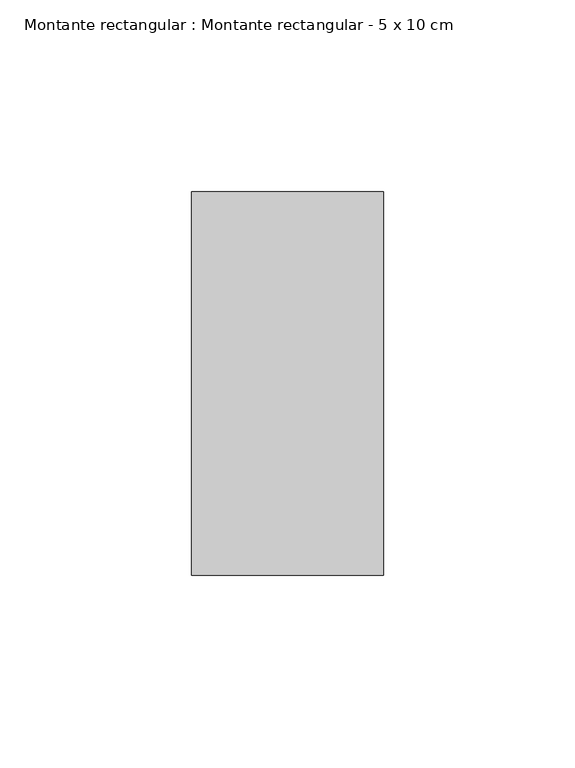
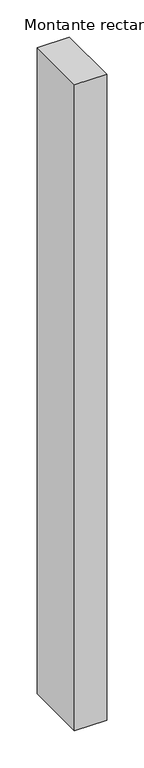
"""IFC4 building model written with IfcOpenShell, lengths in millimetres: member geometry, Montante rectangular : Montante rectangular - 5 x 10 cm."""

from ifc_helpers import new_model, si_unit, frame, origin, place, context, project, spatial, polyline, outline, extrude, source, transform, mapped, element, save


def montante_rectangular_montante_rectangular_5_x_10_cm_cfa485b8(model_context):
    return source(origin(), model_context, "Body", "SweptSolid", [
        extrude(outline(polyline([(25.0, 50.0), (25.0, -50.0), (-25.0, -50.0), (-25.0, 50.0), (25.0, 50.0)])), frame((0.0, 0.0, -1059.4802187), z_axis=(0.0, 0.0, 1.0), x_axis=(1.0, 0.0, 0.0)), (0.0, 0.0, 1.0), 1059.4802187),
    ])


if __name__ == "__main__":
    model = new_model("IFC4")
    model_context = context("Model", 3, world=origin())
    ifc_project = project(units=[si_unit("LENGTHUNIT", "METRE", prefix="MILLI")], contexts=[model_context])
    site = spatial("IfcSite", under=ifc_project)
    building = spatial("IfcBuilding", under=site)
    placement = place(None, origin())
    montante_rectangular_montante_rectangular_5_x_10_cm_shape = montante_rectangular_montante_rectangular_5_x_10_cm_cfa485b8(model_context)
    element("IfcMember", 1, ObjectType="Montante rectangular : Montante rectangular - 5 x 10 cm", at=placement, inside=building, context=model_context, shape_type="MappedRepresentation", body=[
        mapped(montante_rectangular_montante_rectangular_5_x_10_cm_shape, transform((0.0, 0.0, 0.0), x_axis=(1.0, 0.0, 0.0), y_axis=(0.0, 1.0, 0.0), z_axis=(0.0, 0.0, 1.0))),
    ])
    save(model, "model.ifc")
